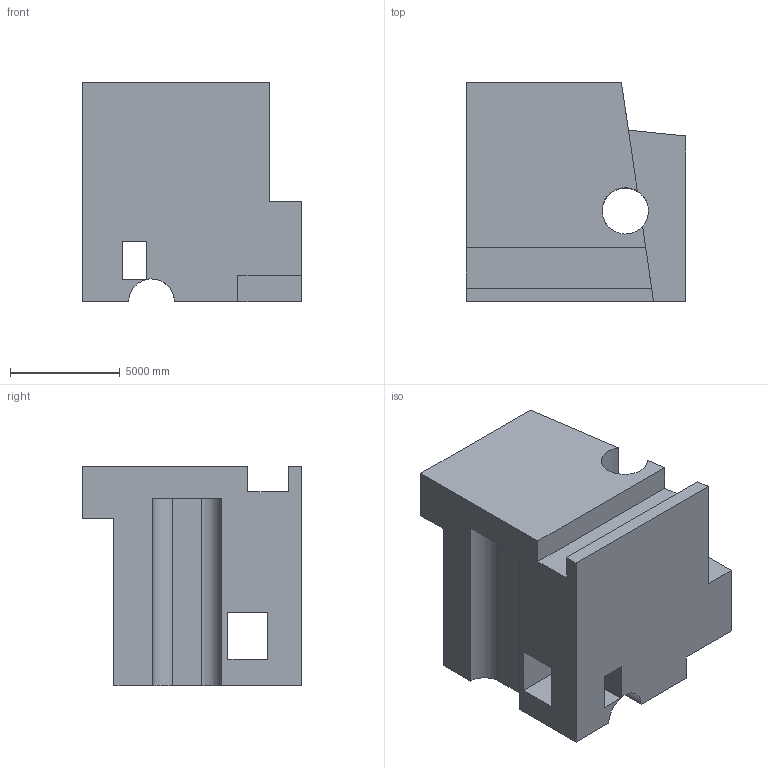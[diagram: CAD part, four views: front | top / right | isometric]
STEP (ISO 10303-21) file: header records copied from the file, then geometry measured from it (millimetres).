
FILE_DESCRIPTION (( 'STEP AP203' ), '1' );
FILE_NAME ('1898.STEP', '2022-08-23T09:13:27', ( 'user' ), ( '' ), 'SwSTEP 2.0', 'SolidWorks 2021', '' );
FILE_SCHEMA (( 'CONFIG_CONTROL_DESIGN' ));
Length unit declared in the file: centimetre
Products named in the file (1): 1898
Bounding box: 10000 x 10000 x 10000 mm (x, y, z)
Volume: 607308718665.1 mm3; surface area: 697335148.3 mm2
Topology: 1 solids, 1 shells, 38 faces, 122 edges, 81 vertices
Faces by surface type: plane 32, cylinder 6
Entity records: 1425 total; most frequent: CARTESIAN_POINT 248, ORIENTED_EDGE 244, DIRECTION 212, EDGE_CURVE 122, LINE 106, VECTOR 106, VERTEX_POINT 81, AXIS2_PLACEMENT_3D 53
